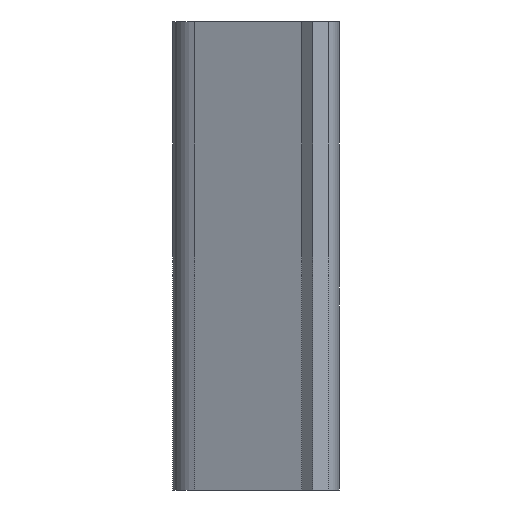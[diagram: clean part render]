
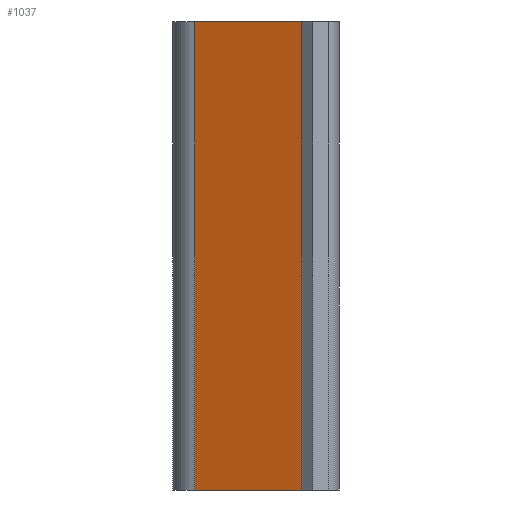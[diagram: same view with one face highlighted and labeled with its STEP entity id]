
A CAD part, left-side view. The second image highlights one B-rep face of the part: STEP entity #1037.
In plain terms, the highlighted planar face has unit normal (-0.929, 0.369, 0).
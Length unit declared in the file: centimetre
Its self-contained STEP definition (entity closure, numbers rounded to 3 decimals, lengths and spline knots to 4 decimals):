
#50=PLANE('',#1125);
#91=FACE_OUTER_BOUND('',#153,.T.);
#153=EDGE_LOOP('',(#796,#797,#798,#799));
#239=LINE('',#1654,#341);
#240=LINE('',#1658,#342);
#241=LINE('',#1660,#343);
#242=LINE('',#1661,#344);
#341=VECTOR('',#1338,1.);
#342=VECTOR('',#1343,1.);
#343=VECTOR('',#1344,1.);
#344=VECTOR('',#1345,1.);
#496=VERTEX_POINT('',#1651);
#497=VERTEX_POINT('',#1653);
#498=VERTEX_POINT('',#1657);
#499=VERTEX_POINT('',#1659);
#620=EDGE_CURVE('',#497,#496,#239,.T.);
#622=EDGE_CURVE('',#496,#498,#240,.T.);
#623=EDGE_CURVE('',#499,#498,#241,.T.);
#624=EDGE_CURVE('',#499,#497,#242,.T.);
#796=ORIENTED_EDGE('',*,*,#622,.T.);
#797=ORIENTED_EDGE('',*,*,#623,.F.);
#798=ORIENTED_EDGE('',*,*,#624,.T.);
#799=ORIENTED_EDGE('',*,*,#620,.T.);
#1037=ADVANCED_FACE('',(#91),#50,.T.);
#1125=AXIS2_PLACEMENT_3D('',#1656,#1341,#1342);
#1338=DIRECTION('',(0.,0.,1.));
#1341=DIRECTION('center_axis',(-0.929,0.369,0.));
#1342=DIRECTION('ref_axis',(0.,0.,1.));
#1343=DIRECTION('',(0.369,0.929,0.));
#1344=DIRECTION('',(0.,0.,1.));
#1345=DIRECTION('',(-0.369,-0.929,0.));
#1651=CARTESIAN_POINT('',(-28.4613,7.1533,121.));
#1653=CARTESIAN_POINT('',(-28.4613,7.1533,0.));
#1654=CARTESIAN_POINT('',(-28.4613,7.1533,0.));
#1656=CARTESIAN_POINT('Origin',(-28.4613,7.1533,0.));
#1657=CARTESIAN_POINT('',(-16.4704,37.324,121.));
#1658=CARTESIAN_POINT('',(-16.4704,37.324,121.));
#1659=CARTESIAN_POINT('',(-16.4704,37.324,0.));
#1660=CARTESIAN_POINT('',(-16.4704,37.324,0.));
#1661=CARTESIAN_POINT('',(-16.4704,37.324,0.));
